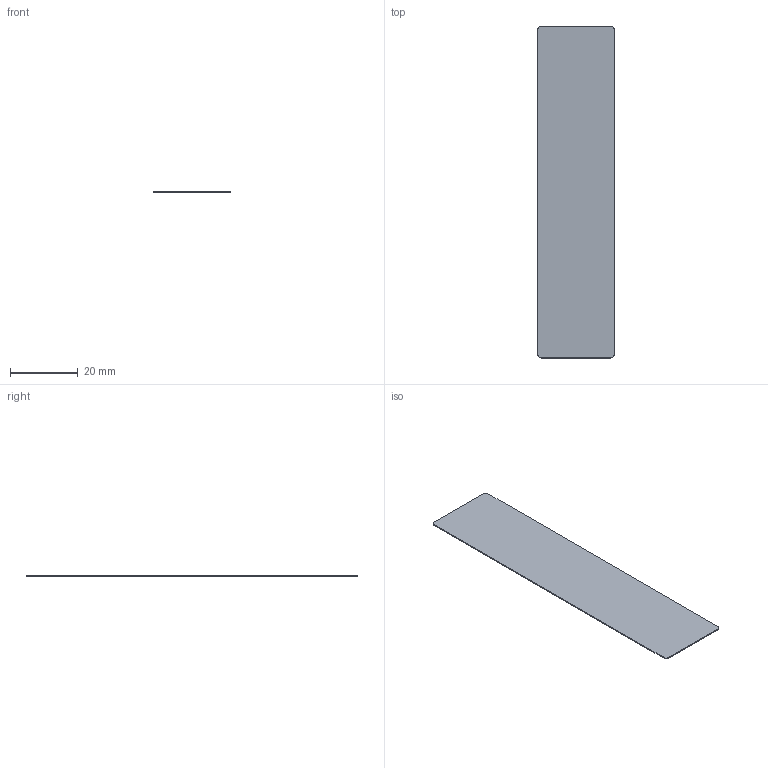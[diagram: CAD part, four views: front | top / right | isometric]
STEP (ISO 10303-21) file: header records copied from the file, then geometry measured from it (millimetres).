
FILE_DESCRIPTION(('Open CASCADE Model'),'2;1');
FILE_NAME('CUT_P02_ANTENNA_BED_Zm22p10','2026-09-15T13:10:23',('Author') ,('Open CASCADE'),'Open CASCADE STEP processor 7.9','build123d', 'Unknown');
FILE_SCHEMA(('AUTOMOTIVE_DESIGN { 1 0 10303 214 1 1 1 1 }'));
Length unit declared in the file: millimetre
Products named in the file (1): CUT_P02_ANTENNA_BED_Zm22p10
Bounding box: 22.5 x 98 x 0.31 mm (x, y, z)
Volume: 683.3 mm3; surface area: 4482.5 mm2
Topology: 1 solids, 1 shells, 10 faces, 24 edges, 16 vertices
Faces by surface type: plane 6, cylinder 4
Entity records: 618 total; most frequent: DIRECTION 102, CARTESIAN_POINT 99, LINE 56, VECTOR 56, ORIENTED_EDGE 48, PCURVE 48, DEFINITIONAL_REPRESENTATION 48, EDGE_CURVE 24
